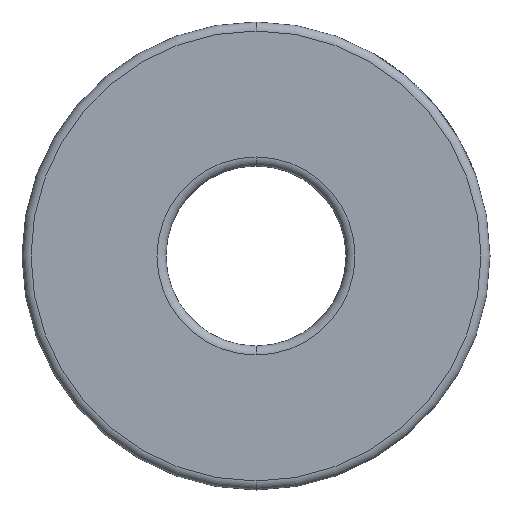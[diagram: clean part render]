
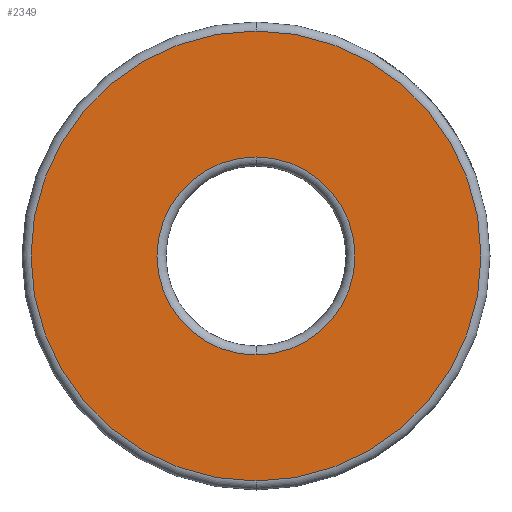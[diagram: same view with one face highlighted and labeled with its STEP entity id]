
A CAD part, front view. The second image highlights one B-rep face of the part: STEP entity #2349.
In plain terms, the highlighted planar face has unit normal (0, -1, 0).
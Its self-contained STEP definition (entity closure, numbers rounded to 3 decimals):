
#65 = CIRCLE ( 'NONE', #2449, 12.5 ) ;
#151 = CARTESIAN_POINT ( 'NONE',  ( 0., 0., 0. ) ) ;
#225 = DIRECTION ( 'NONE',  ( 0., -1., 0. ) ) ;
#267 = PLANE ( 'NONE',  #2046 ) ;
#371 = VERTEX_POINT ( 'NONE', #711 ) ;
#622 = EDGE_LOOP ( 'NONE', ( #5598, #1935 ) ) ;
#647 = AXIS2_PLACEMENT_3D ( 'NONE', #151, #3820, #687 ) ;
#687 = DIRECTION ( 'NONE',  ( 0., 0., 1. ) ) ;
#711 = CARTESIAN_POINT ( 'NONE',  ( 0., 0., -12.5 ) ) ;
#1388 = VERTEX_POINT ( 'NONE', #3745 ) ;
#1408 = CIRCLE ( 'NONE', #4296, 12.5 ) ;
#1813 = DIRECTION ( 'NONE',  ( 0., 1., 0. ) ) ;
#1880 = DIRECTION ( 'NONE',  ( 0., 1., 0. ) ) ;
#1935 = ORIENTED_EDGE ( 'NONE', *, *, #5947, .T. ) ;
#2046 = AXIS2_PLACEMENT_3D ( 'NONE', #5895, #1880, #5429 ) ;
#2105 = AXIS2_PLACEMENT_3D ( 'NONE', #4872, #1813, #5367 ) ;
#2111 = ORIENTED_EDGE ( 'NONE', *, *, #3736, .T. ) ;
#2349 = ADVANCED_FACE ( 'NONE', ( #6551, #6398 ), #267, .F. ) ;
#2449 = AXIS2_PLACEMENT_3D ( 'NONE', #3378, #225, #3889 ) ;
#2533 = CARTESIAN_POINT ( 'NONE',  ( 0., 0., 0. ) ) ;
#2628 = CARTESIAN_POINT ( 'NONE',  ( 0., 0., -5.5 ) ) ;
#2953 = VERTEX_POINT ( 'NONE', #2628 ) ;
#3039 = DIRECTION ( 'NONE',  ( 0., 0., 1. ) ) ;
#3299 = ORIENTED_EDGE ( 'NONE', *, *, #6000, .T. ) ;
#3378 = CARTESIAN_POINT ( 'NONE',  ( 0., 0., 0. ) ) ;
#3736 = EDGE_CURVE ( 'NONE', #371, #6525, #1408, .T. ) ;
#3745 = CARTESIAN_POINT ( 'NONE',  ( 0., 0., 5.5 ) ) ;
#3818 = EDGE_LOOP ( 'NONE', ( #3299, #2111 ) ) ;
#3820 = DIRECTION ( 'NONE',  ( 0., 1., 0. ) ) ;
#3889 = DIRECTION ( 'NONE',  ( 0., 0., 1. ) ) ;
#4235 = CIRCLE ( 'NONE', #2105, 5.5 ) ;
#4296 = AXIS2_PLACEMENT_3D ( 'NONE', #2533, #6023, #3039 ) ;
#4461 = CIRCLE ( 'NONE', #647, 5.5 ) ;
#4543 = CARTESIAN_POINT ( 'NONE',  ( 0., 0., 12.5 ) ) ;
#4872 = CARTESIAN_POINT ( 'NONE',  ( 0., 0., 0. ) ) ;
#5367 = DIRECTION ( 'NONE',  ( 0., 0., 1. ) ) ;
#5429 = DIRECTION ( 'NONE',  ( 0., 0., 1. ) ) ;
#5598 = ORIENTED_EDGE ( 'NONE', *, *, #5725, .T. ) ;
#5725 = EDGE_CURVE ( 'NONE', #1388, #2953, #4461, .T. ) ;
#5895 = CARTESIAN_POINT ( 'NONE',  ( 0., 0., 0. ) ) ;
#5947 = EDGE_CURVE ( 'NONE', #2953, #1388, #4235, .T. ) ;
#6000 = EDGE_CURVE ( 'NONE', #6525, #371, #65, .T. ) ;
#6023 = DIRECTION ( 'NONE',  ( 0., -1., 0. ) ) ;
#6398 = FACE_OUTER_BOUND ( 'NONE', #3818, .T. ) ;
#6525 = VERTEX_POINT ( 'NONE', #4543 ) ;
#6551 = FACE_BOUND ( 'NONE', #622, .T. ) ;
